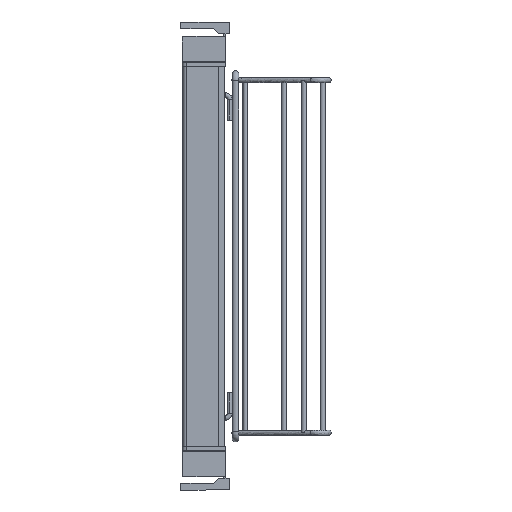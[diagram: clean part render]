
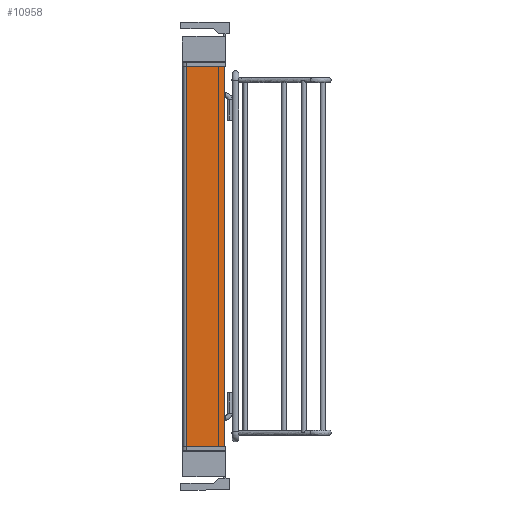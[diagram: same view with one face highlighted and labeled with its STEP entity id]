
A CAD part, left-side view. The second image highlights one B-rep face of the part: STEP entity #10958.
In plain terms, the highlighted planar face has unit normal (-1, 0, 0).
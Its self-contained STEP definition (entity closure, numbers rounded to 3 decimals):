
#635=PLANE('',#12048);
#1197=FACE_OUTER_BOUND('',#1866,.T.);
#1866=EDGE_LOOP('',(#10083,#10084,#10085,#10086));
#3132=LINE('',#18945,#4210);
#3324=LINE('',#19414,#4402);
#3351=LINE('',#19476,#4429);
#3352=LINE('',#19478,#4430);
#4210=VECTOR('',#14457,10.);
#4402=VECTOR('',#14919,10.);
#4429=VECTOR('',#14982,10.);
#4430=VECTOR('',#14985,10.);
#5342=VERTEX_POINT('',#18942);
#5343=VERTEX_POINT('',#18944);
#5483=VERTEX_POINT('',#19410);
#5485=VERTEX_POINT('',#19413);
#6783=EDGE_CURVE('',#5342,#5343,#3132,.T.);
#7015=EDGE_CURVE('',#5485,#5483,#3324,.T.);
#7047=EDGE_CURVE('',#5342,#5485,#3351,.T.);
#7048=EDGE_CURVE('',#5343,#5483,#3352,.T.);
#10083=ORIENTED_EDGE('',*,*,#7015,.T.);
#10084=ORIENTED_EDGE('',*,*,#7048,.F.);
#10085=ORIENTED_EDGE('',*,*,#6783,.F.);
#10086=ORIENTED_EDGE('',*,*,#7047,.T.);
#10958=ADVANCED_FACE('',(#1197),#635,.T.);
#12048=AXIS2_PLACEMENT_3D('',#19477,#14983,#14984);
#14457=DIRECTION('',(0.,1.,0.));
#14919=DIRECTION('',(0.,1.,0.));
#14982=DIRECTION('',(0.,0.,1.));
#14983=DIRECTION('center_axis',(-1.,0.,0.));
#14984=DIRECTION('ref_axis',(0.,-1.,0.));
#14985=DIRECTION('',(0.,0.,1.));
#18942=CARTESIAN_POINT('',(0.,0.,0.));
#18944=CARTESIAN_POINT('',(0.,46.,0.));
#18945=CARTESIAN_POINT('',(0.,0.,0.));
#19410=CARTESIAN_POINT('',(0.,46.,455.));
#19413=CARTESIAN_POINT('',(0.,0.,455.));
#19414=CARTESIAN_POINT('',(0.,35.088,455.));
#19476=CARTESIAN_POINT('',(0.,0.,0.));
#19477=CARTESIAN_POINT('Origin',(0.,46.,0.));
#19478=CARTESIAN_POINT('',(0.,46.,0.));
